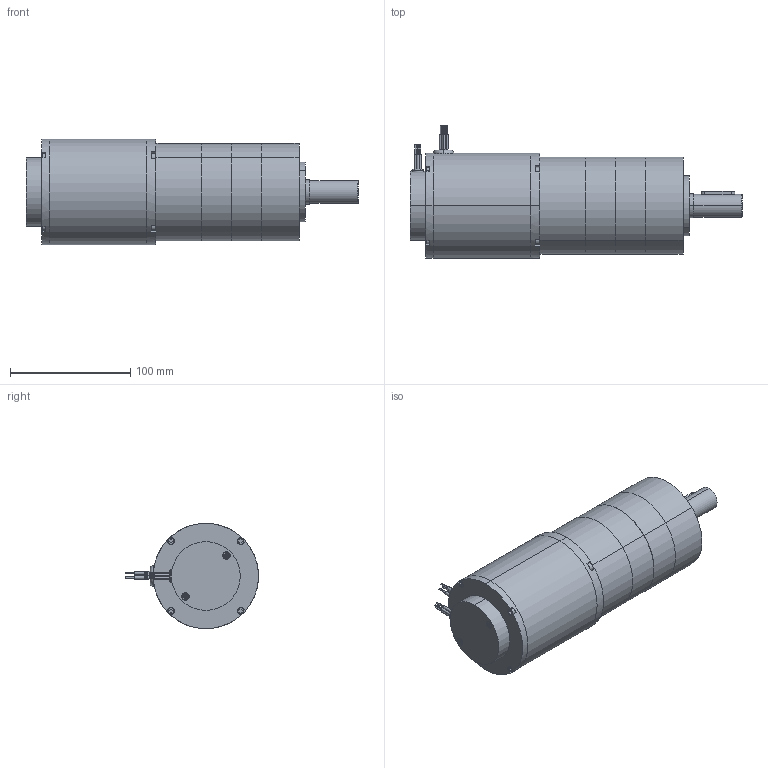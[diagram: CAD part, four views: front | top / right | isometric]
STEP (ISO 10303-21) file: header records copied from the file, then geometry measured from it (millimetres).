
FILE_DESCRIPTION (( 'STEP AP203' ), '1' );
FILE_NAME ('bl86425gp2.step', '2018-12-07T19:05:16', ( '' ), ( '' ), 'SwSTEP 2.0', 'SolidWorks 2017', '' );
FILE_SCHEMA (( 'CONFIG_CONTROL_DESIGN' ));
Length unit declared in the file: inch
Products named in the file (1): bl86425gp2
Bounding box: 275.7 x 110.39 x 87.38 mm (x, y, z)
Volume: 1241601.2 mm3; surface area: 157607.2 mm2
Topology: 27 solids, 27 shells, 539 faces, 1171 edges, 742 vertices
Faces by surface type: plane 240, cylinder 206, cone 85, torus 8
Entity records: 14925 total; most frequent: DIRECTION 2738, CARTESIAN_POINT 2639, ORIENTED_EDGE 2318, EDGE_CURVE 1159, AXIS2_PLACEMENT_3D 1047, VERTEX_POINT 742, VECTOR 644, LINE 644
